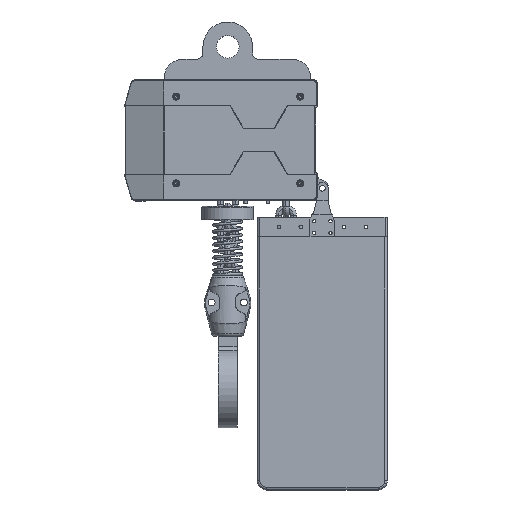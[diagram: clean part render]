
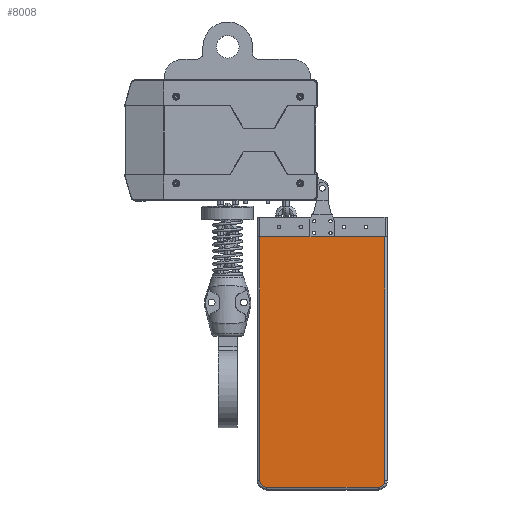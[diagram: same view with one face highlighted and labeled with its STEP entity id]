
A CAD part, top view. The second image highlights one B-rep face of the part: STEP entity #8008.
In plain terms, the highlighted planar face has unit normal (0, 0, 1).
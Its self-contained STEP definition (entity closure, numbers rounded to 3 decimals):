
#3994=CIRCLE('',#53591,11.);
#3995=CIRCLE('',#53592,11.);
#8008=ADVANCED_FACE('',(#11782),#9634,.T.);
#9634=PLANE('',#53593);
#11782=FACE_OUTER_BOUND('',#14613,.T.);
#14613=EDGE_LOOP('',(#26293,#26294,#26295,#26296,#26297,#26298));
#26293=ORIENTED_EDGE('',*,*,#40022,.T.);
#26294=ORIENTED_EDGE('',*,*,#40023,.T.);
#26295=ORIENTED_EDGE('',*,*,#40024,.T.);
#26296=ORIENTED_EDGE('',*,*,#40025,.T.);
#26297=ORIENTED_EDGE('',*,*,#40026,.T.);
#26298=ORIENTED_EDGE('',*,*,#40027,.T.);
#33452=VERTEX_POINT('',#94520);
#33453=VERTEX_POINT('',#94521);
#33454=VERTEX_POINT('',#94523);
#33455=VERTEX_POINT('',#94525);
#33456=VERTEX_POINT('',#94527);
#33457=VERTEX_POINT('',#94529);
#40022=EDGE_CURVE('',#33452,#33453,#45158,.T.);
#40023=EDGE_CURVE('',#33453,#33454,#45159,.T.);
#40024=EDGE_CURVE('',#33454,#33455,#45160,.T.);
#40025=EDGE_CURVE('',#33455,#33456,#3994,.T.);
#40026=EDGE_CURVE('',#33456,#33457,#45161,.T.);
#40027=EDGE_CURVE('',#33457,#33452,#3995,.T.);
#45158=LINE('',#94519,#49276);
#45159=LINE('',#94522,#49277);
#45160=LINE('',#94524,#49278);
#45161=LINE('',#94528,#49279);
#49276=VECTOR('',#65068,1.);
#49277=VECTOR('',#65069,1.);
#49278=VECTOR('',#65070,1.);
#49279=VECTOR('',#65073,1.);
#53591=AXIS2_PLACEMENT_3D('',#94526,#65071,#65072);
#53592=AXIS2_PLACEMENT_3D('',#94530,#65074,#65075);
#53593=AXIS2_PLACEMENT_3D('',#94531,#65076,#65077);
#65068=DIRECTION('',(0.,1.,0.));
#65069=DIRECTION('',(-1.,0.,0.));
#65070=DIRECTION('',(0.,-1.,0.));
#65071=DIRECTION('',(0.,0.,1.));
#65072=DIRECTION('',(1.,0.,0.));
#65073=DIRECTION('',(1.,0.,0.));
#65074=DIRECTION('',(0.,0.,1.));
#65075=DIRECTION('',(1.,0.,0.));
#65076=DIRECTION('',(0.,0.,1.));
#65077=DIRECTION('',(1.,0.,0.));
#94519=CARTESIAN_POINT('',(1920.462,56.396,196.375));
#94520=CARTESIAN_POINT('',(1920.462,-249.604,196.375));
#94521=CARTESIAN_POINT('',(1920.462,143.396,196.375));
#94522=CARTESIAN_POINT('',(1744.812,143.396,196.375));
#94523=CARTESIAN_POINT('',(1718.662,143.396,196.375));
#94524=CARTESIAN_POINT('',(1718.662,56.396,196.375));
#94525=CARTESIAN_POINT('',(1718.662,-249.604,196.375));
#94526=CARTESIAN_POINT('',(1729.662,-249.604,196.375));
#94527=CARTESIAN_POINT('',(1729.662,-260.604,196.375));
#94528=CARTESIAN_POINT('',(1909.462,-260.604,196.375));
#94529=CARTESIAN_POINT('',(1909.462,-260.604,196.375));
#94530=CARTESIAN_POINT('',(1909.462,-249.604,196.375));
#94531=CARTESIAN_POINT('',(1744.812,56.396,196.375));
